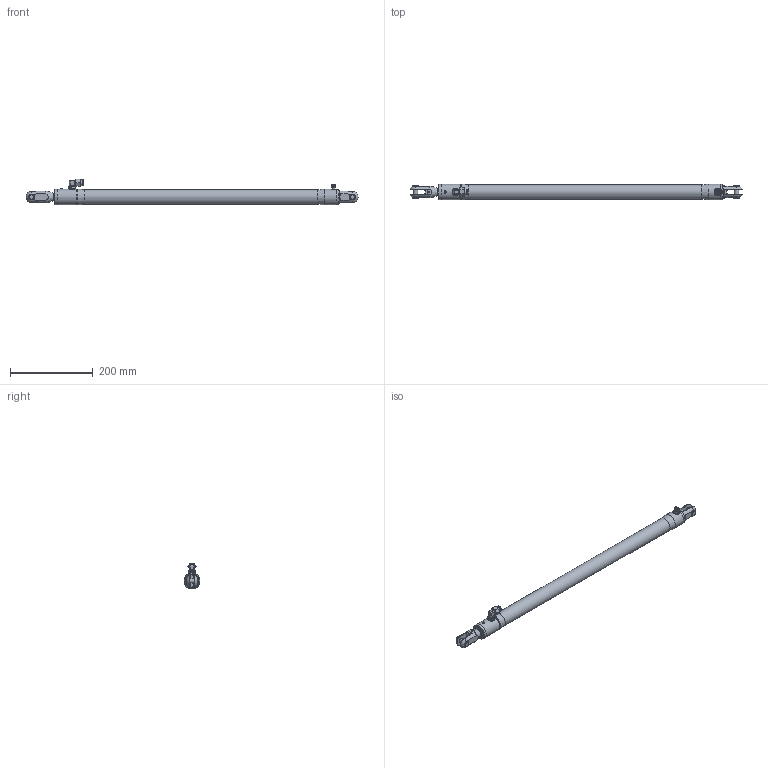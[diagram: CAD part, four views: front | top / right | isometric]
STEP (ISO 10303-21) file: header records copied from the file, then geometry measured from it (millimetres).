
FILE_DESCRIPTION(/* description */ (''),/* implementation_level */ '2;1');
FILE_NAME(/* name */ 'Q:\AA BRAND HYDRAULICS\HYDRAULICS FAMILY DIRECTORY\HYDRAULICS\CYLINDERS\RAMS\ALUMINIUM - STANDARD SINGLE ACTING (-0006 To -0260)\RSA-0006-S0510-NP-71\RSA-0006-S0510-NP-71 (Closed).stp',/* time_stamp */ '2017-11-29T12:43:17+00:00',/* author */ ('Lorena'),/* organization */ (''),/* preprocessor_version */ 'ST-DEVELOPER v16.13',/* originating_system */ 'Autodesk Inventor 2018',/* authorisation */ '');
FILE_SCHEMA (('AUTOMOTIVE_DESIGN { 1 0 10303 214 3 1 1 }'));
Length unit declared in the file: millimetre
Products named in the file (1): RSA-0006-S0510-NP-71 (Closed)
Bounding box: 804.56 x 38.2 x 62.52 mm (x, y, z)
Volume: 744895.5 mm3; surface area: 97699.6 mm2
Topology: 1 solids, 4 shells, 1616 faces, 4281 edges, 2824 vertices
Faces by surface type: plane 895, bspline 574, cylinder 83, cone 56, torus 4, sphere 4
Full cylindrical faces by diameter (mm): 3.3 x2, 3.5 x1, 4 x3, 4.4 x1, 4.5 x2, 5 x2, 7 x1, 7.728 x1, 8 x2, 8.728 x1, 8.8 x2, 9 x1, 9.728 x2, 10 x2, 11.11 x3, 11.8 x2, 12 x2, 13 x1, 13.887 x2, 15.1 x2, 35.2 x1, 38.2 x4
Entity records: 56689 total; most frequent: CARTESIAN_POINT 19400, ORIENTED_EDGE 8310, DIRECTION 5297, EDGE_CURVE 4155, VERTEX_POINT 2786, LINE 2683, VECTOR 2683, EDGE_LOOP 1858
